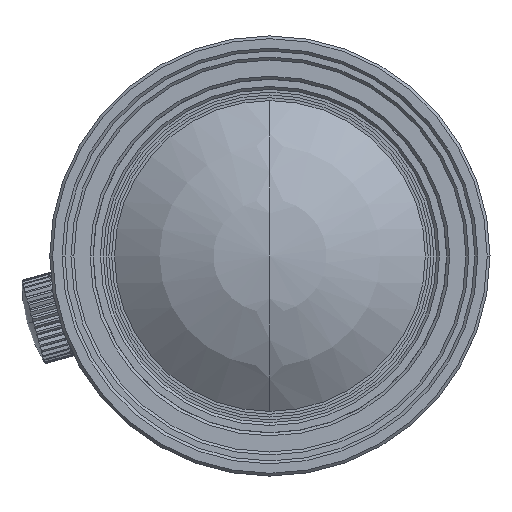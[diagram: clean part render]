
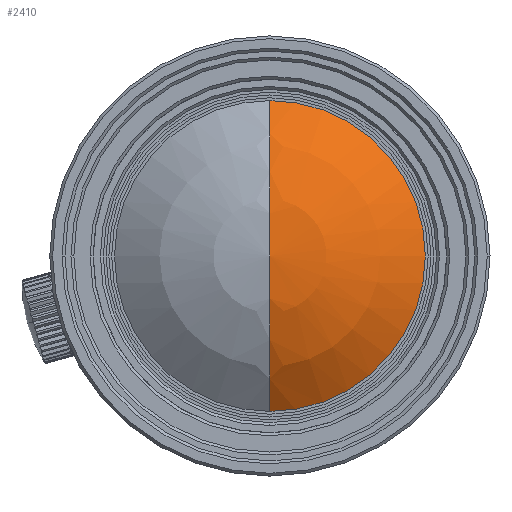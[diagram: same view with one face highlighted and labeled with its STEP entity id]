
A CAD part, left-side view. The second image highlights one B-rep face of the part: STEP entity #2410.
In plain terms, the highlighted spherical face has radius 25.657 mm.
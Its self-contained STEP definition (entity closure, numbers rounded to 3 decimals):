
#2313=CARTESIAN_POINT('',(0.,12.751,0.));
#2314=DIRECTION('',(1.,0.,0.));
#2315=DIRECTION('',(0.,1.,0.));
#2316=AXIS2_PLACEMENT_3D('',#2313,#2314,#2315);
#2318=CARTESIAN_POINT('',(0.,12.751,0.));
#2319=DIRECTION('',(-1.,0.,0.));
#2320=DIRECTION('',(0.,1.,0.));
#2321=AXIS2_PLACEMENT_3D('',#2318,#2319,#2320);
#2332=CARTESIAN_POINT('',(0.,32.483,0.));
#2333=DIRECTION('',(0.,-1.,0.));
#2334=DIRECTION('',(0.,0.,1.));
#2335=AXIS2_PLACEMENT_3D('',#2332,#2333,#2334);
#2369=CARTESIAN_POINT('',(0.,38.408,0.));
#2370=CARTESIAN_POINT('',(0.,32.483,16.4));
#2371=VERTEX_POINT('',#2369);
#2372=VERTEX_POINT('',#2370);
#2373=CARTESIAN_POINT('',(0.,32.483,-16.4));
#2374=VERTEX_POINT('',#2373);
#2399=CARTESIAN_POINT('',(0.,12.751,0.));
#2400=DIRECTION('',(0.,1.,0.));
#2401=DIRECTION('',(0.,0.,-1.));
#2402=AXIS2_PLACEMENT_3D('',#2399,#2400,#2401);
#2403=SPHERICAL_SURFACE('',#2402,25.657);
#2404=ORIENTED_EDGE('',*,*,#2390,.T.);
#2406=ORIENTED_EDGE('',*,*,#2405,.T.);
#2407=ORIENTED_EDGE('',*,*,#2392,.F.);
#2408=EDGE_LOOP('',(#2404,#2406,#2407));
#2409=FACE_OUTER_BOUND('',#2408,.F.);
#2410=ADVANCED_FACE('',(#2409),#2403,.T.);
#2317=CIRCLE('',#2316,25.657);
#2322=CIRCLE('',#2321,25.657);
#2336=CIRCLE('',#2335,16.4);
#2390=EDGE_CURVE('',#2371,#2372,#2317,.T.);
#2392=EDGE_CURVE('',#2371,#2374,#2322,.T.);
#2405=EDGE_CURVE('',#2372,#2374,#2336,.T.);
